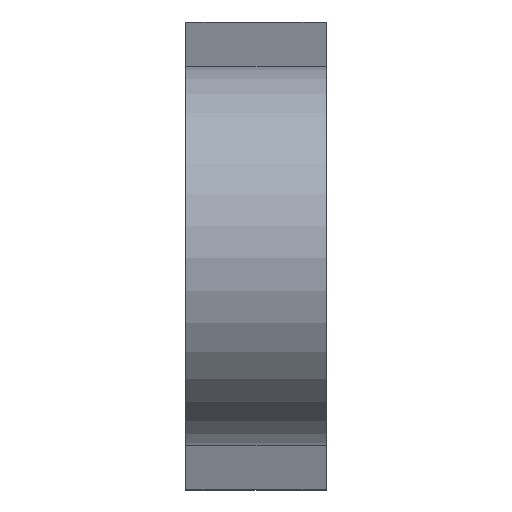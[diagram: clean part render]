
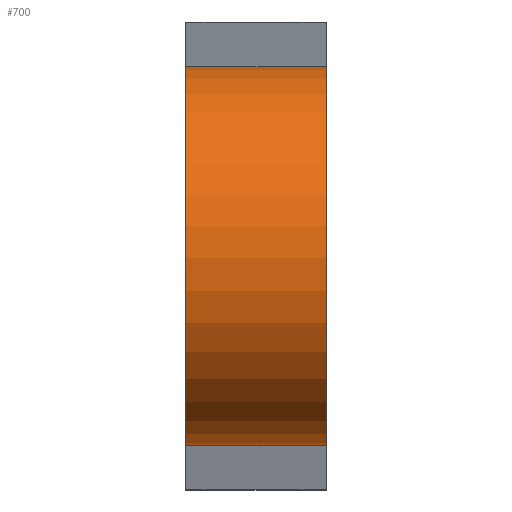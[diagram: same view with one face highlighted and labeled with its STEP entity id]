
A CAD part, left-side view. The second image highlights one B-rep face of the part: STEP entity #700.
In plain terms, the highlighted cylindrical face has radius 8.1 mm (diameter 16.2 mm), a partial arc.
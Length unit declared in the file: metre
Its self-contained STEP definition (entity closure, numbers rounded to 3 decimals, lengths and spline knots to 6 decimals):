
#40=CIRCLE('',#762,0.0081);
#41=CIRCLE('',#763,0.0081);
#83=LINE('',#1102,#139);
#84=LINE('',#1106,#140);
#139=VECTOR('',#867,1.);
#140=VECTOR('',#870,1.);
#202=ORIENTED_EDGE('',*,*,#408,.T.);
#203=ORIENTED_EDGE('',*,*,#409,.F.);
#204=ORIENTED_EDGE('',*,*,#410,.F.);
#205=ORIENTED_EDGE('',*,*,#411,.T.);
#408=EDGE_CURVE('',#511,#512,#40,.T.);
#409=EDGE_CURVE('',#513,#512,#83,.T.);
#410=EDGE_CURVE('',#514,#513,#41,.T.);
#411=EDGE_CURVE('',#514,#511,#84,.T.);
#511=VERTEX_POINT('',#1100);
#512=VERTEX_POINT('',#1101);
#513=VERTEX_POINT('',#1103);
#514=VERTEX_POINT('',#1105);
#572=EDGE_LOOP('',(#202,#203,#204,#205));
#626=FACE_BOUND('',#572,.T.);
#680=CYLINDRICAL_SURFACE('',#761,0.0081);
#700=ADVANCED_FACE('',(#626),#680,.T.);
#761=AXIS2_PLACEMENT_3D('',#1098,#863,#864);
#762=AXIS2_PLACEMENT_3D('',#1099,#865,#866);
#763=AXIS2_PLACEMENT_3D('',#1104,#868,#869);
#863=DIRECTION('',(0.,-1.,0.));
#864=DIRECTION('',(-1.,0.,0.));
#865=DIRECTION('',(0.,1.,0.));
#866=DIRECTION('',(1.,0.,0.));
#867=DIRECTION('',(0.,-1.,0.));
#868=DIRECTION('',(0.,1.,0.));
#869=DIRECTION('',(1.,0.,0.));
#870=DIRECTION('',(0.,-1.,0.));
#1098=CARTESIAN_POINT('',(0.,0.0375,0.));
#1099=CARTESIAN_POINT('',(0.,0.035,0.));
#1100=CARTESIAN_POINT('',(0.,0.035,-0.0081));
#1101=CARTESIAN_POINT('',(-0.000207,0.035,0.008097));
#1102=CARTESIAN_POINT('',(-0.000207,0.0375,0.008097));
#1103=CARTESIAN_POINT('',(-0.000207,0.041,0.008097));
#1104=CARTESIAN_POINT('',(0.,0.041,0.));
#1105=CARTESIAN_POINT('',(0.,0.041,-0.0081));
#1106=CARTESIAN_POINT('',(0.,0.0375,-0.0081));
